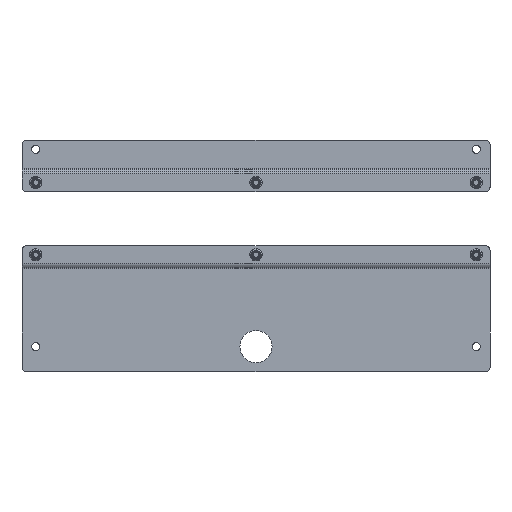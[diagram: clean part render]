
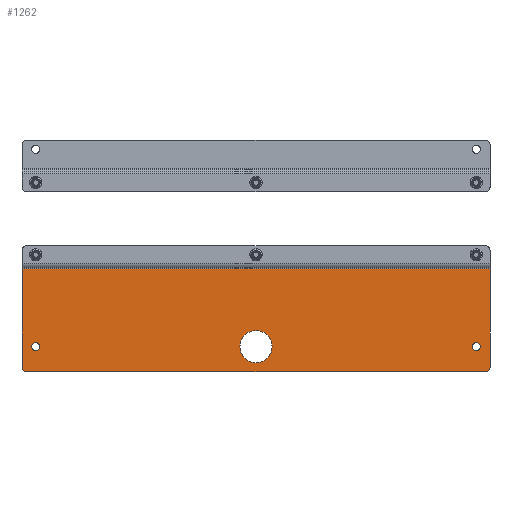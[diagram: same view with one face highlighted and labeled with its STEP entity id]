
A CAD part, top view. The second image highlights one B-rep face of the part: STEP entity #1262.
In plain terms, the highlighted planar face has unit normal (0, 0, 1).
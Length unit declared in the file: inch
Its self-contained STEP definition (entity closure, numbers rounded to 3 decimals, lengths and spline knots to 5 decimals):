
#509=CARTESIAN_POINT('',(0.,-4.98285,-0.125));
#510=DIRECTION('',(0.,0.,1.));
#511=DIRECTION('',(1.,0.,0.));
#512=AXIS2_PLACEMENT_3D('',#509,#510,#511);
#517=CARTESIAN_POINT('',(0.,-4.98285,-0.125));
#518=DIRECTION('',(0.,0.,1.));
#519=DIRECTION('',(-1.,0.,0.));
#520=AXIS2_PLACEMENT_3D('',#517,#518,#519);
#525=CARTESIAN_POINT('',(-12.,-4.98285,-0.125));
#526=DIRECTION('',(0.,0.,1.));
#527=DIRECTION('',(1.,0.,0.));
#528=AXIS2_PLACEMENT_3D('',#525,#526,#527);
#533=CARTESIAN_POINT('',(-12.,-4.98285,-0.125));
#534=DIRECTION('',(0.,0.,1.));
#535=DIRECTION('',(-1.,0.,0.));
#536=AXIS2_PLACEMENT_3D('',#533,#534,#535);
#541=CARTESIAN_POINT('',(12.,-4.98285,-0.125));
#542=DIRECTION('',(0.,0.,1.));
#543=DIRECTION('',(1.,0.,0.));
#544=AXIS2_PLACEMENT_3D('',#541,#542,#543);
#549=CARTESIAN_POINT('',(12.,-4.98285,-0.125));
#550=DIRECTION('',(0.,0.,1.));
#551=DIRECTION('',(-1.,0.,0.));
#552=AXIS2_PLACEMENT_3D('',#549,#550,#551);
#557=CARTESIAN_POINT('',(-12.5,-6.10785,-0.125));
#558=DIRECTION('',(0.,0.,1.));
#559=DIRECTION('',(-1.,0.,0.));
#560=AXIS2_PLACEMENT_3D('',#557,#558,#559);
#565=DIRECTION('',(0.,-1.,0.));
#566=VECTOR('',#565,5.38065);
#567=CARTESIAN_POINT('',(-12.75,-0.7272,-0.125));
#568=LINE('',#567,#566);
#572=DIRECTION('',(0.,1.,0.));
#573=VECTOR('',#572,5.38065);
#574=CARTESIAN_POINT('',(12.75,-6.10785,-0.125));
#575=LINE('',#574,#573);
#579=CARTESIAN_POINT('',(12.5,-6.10785,-0.125));
#580=DIRECTION('',(0.,0.,1.));
#581=DIRECTION('',(0.,-1.,0.));
#582=AXIS2_PLACEMENT_3D('',#579,#580,#581);
#587=DIRECTION('',(1.,0.,0.));
#588=VECTOR('',#587,25.);
#589=CARTESIAN_POINT('',(-12.5,-6.35785,-0.125));
#590=LINE('',#589,#588);
#671=DIRECTION('',(-1.,0.,0.));
#672=VECTOR('',#671,25.5);
#673=CARTESIAN_POINT('',(12.75,-0.7272,-0.125));
#674=LINE('',#673,#672);
#725=CARTESIAN_POINT('',(12.75,-0.7272,-0.125));
#726=CARTESIAN_POINT('',(-12.75,-0.7272,-0.125));
#727=VERTEX_POINT('',#725);
#728=VERTEX_POINT('',#726);
#749=CARTESIAN_POINT('',(0.875,-4.98285,-0.125));
#750=CARTESIAN_POINT('',(-0.875,-4.98285,-0.125));
#751=VERTEX_POINT('',#749);
#752=VERTEX_POINT('',#750);
#753=CARTESIAN_POINT('',(-11.78125,-4.98285,-0.125));
#754=CARTESIAN_POINT('',(-12.21875,-4.98285,-0.125));
#755=VERTEX_POINT('',#753);
#756=VERTEX_POINT('',#754);
#757=CARTESIAN_POINT('',(12.21875,-4.98285,-0.125));
#758=CARTESIAN_POINT('',(11.78125,-4.98285,-0.125));
#759=VERTEX_POINT('',#757);
#760=VERTEX_POINT('',#758);
#777=CARTESIAN_POINT('',(-12.75,-6.10785,-0.125));
#778=VERTEX_POINT('',#777);
#779=CARTESIAN_POINT('',(-12.5,-6.35785,-0.125));
#780=VERTEX_POINT('',#779);
#793=CARTESIAN_POINT('',(12.5,-6.35785,-0.125));
#794=VERTEX_POINT('',#793);
#795=CARTESIAN_POINT('',(12.75,-6.10785,-0.125));
#796=VERTEX_POINT('',#795);
#1226=CARTESIAN_POINT('',(-12.75,-0.66288,-0.125));
#1227=DIRECTION('',(0.,0.,1.));
#1228=DIRECTION('',(-1.,0.,0.));
#1229=AXIS2_PLACEMENT_3D('',#1226,#1227,#1228);
#1230=PLANE('',#1229);
#1232=ORIENTED_EDGE('',*,*,#1231,.F.);
#1234=ORIENTED_EDGE('',*,*,#1233,.F.);
#1236=ORIENTED_EDGE('',*,*,#1235,.F.);
#1238=ORIENTED_EDGE('',*,*,#1237,.F.);
#1240=ORIENTED_EDGE('',*,*,#1239,.F.);
#1242=ORIENTED_EDGE('',*,*,#1241,.F.);
#1243=EDGE_LOOP('',(#1232,#1234,#1236,#1238,#1240,#1242));
#1244=FACE_OUTER_BOUND('',#1243,.F.);
#1246=ORIENTED_EDGE('',*,*,#1245,.T.);
#1248=ORIENTED_EDGE('',*,*,#1247,.T.);
#1249=EDGE_LOOP('',(#1246,#1248));
#1250=FACE_BOUND('',#1249,.F.);
#1251=ORIENTED_EDGE('',*,*,#1216,.T.);
#1253=ORIENTED_EDGE('',*,*,#1252,.T.);
#1254=EDGE_LOOP('',(#1251,#1253));
#1255=FACE_BOUND('',#1254,.F.);
#1257=ORIENTED_EDGE('',*,*,#1256,.T.);
#1259=ORIENTED_EDGE('',*,*,#1258,.T.);
#1260=EDGE_LOOP('',(#1257,#1259));
#1261=FACE_BOUND('',#1260,.F.);
#513=CIRCLE('',#512,0.875);
#521=CIRCLE('',#520,0.875);
#529=CIRCLE('',#528,0.21875);
#537=CIRCLE('',#536,0.21875);
#545=CIRCLE('',#544,0.21875);
#553=CIRCLE('',#552,0.21875);
#561=CIRCLE('',#560,0.25);
#583=CIRCLE('',#582,0.25);
#1216=EDGE_CURVE('',#759,#760,#545,.T.);
#1231=EDGE_CURVE('',#778,#780,#561,.T.);
#1233=EDGE_CURVE('',#728,#778,#568,.T.);
#1235=EDGE_CURVE('',#727,#728,#674,.T.);
#1237=EDGE_CURVE('',#796,#727,#575,.T.);
#1239=EDGE_CURVE('',#794,#796,#583,.T.);
#1241=EDGE_CURVE('',#780,#794,#590,.T.);
#1245=EDGE_CURVE('',#755,#756,#529,.T.);
#1247=EDGE_CURVE('',#756,#755,#537,.T.);
#1252=EDGE_CURVE('',#760,#759,#553,.T.);
#1256=EDGE_CURVE('',#751,#752,#513,.T.);
#1258=EDGE_CURVE('',#752,#751,#521,.T.);
#1262=ADVANCED_FACE('',(#1244,#1250,#1255,#1261),#1230,.T.);
